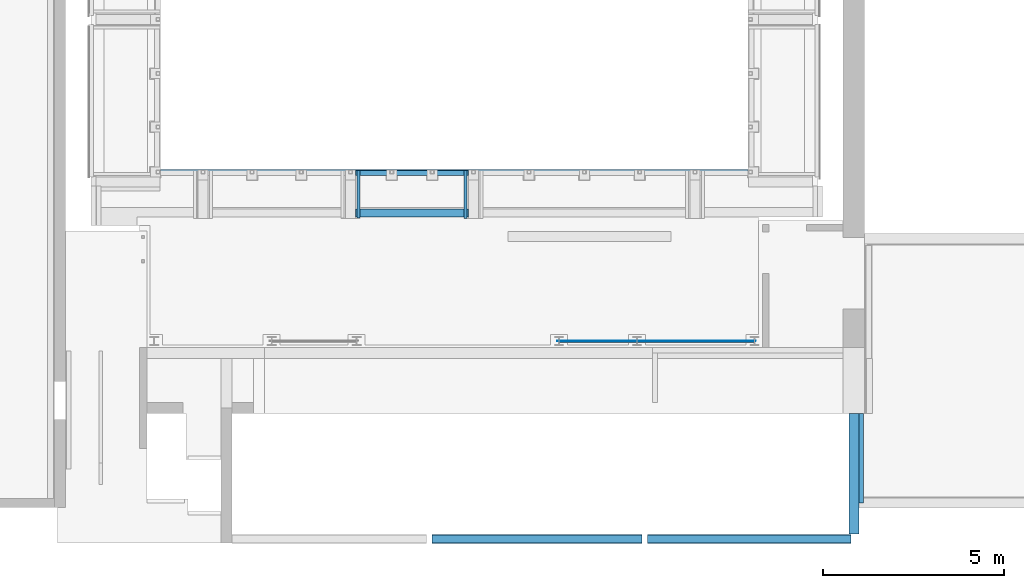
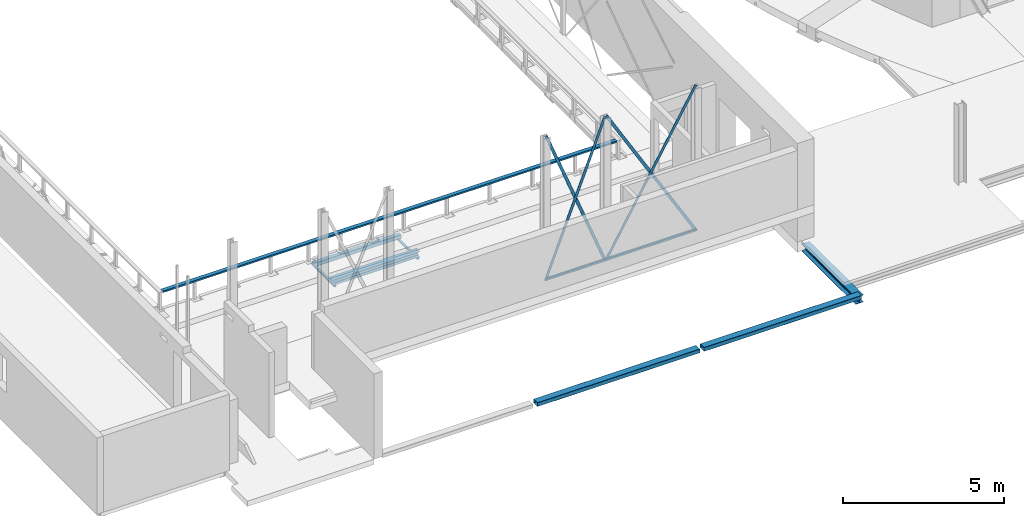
# One storey, part 16 of 68: 14 beams.
"""IFC2X3 building model written with IfcOpenShell, lengths in millimetres."""

from ifc_helpers import new_model, entity, si_unit, converted_unit, derived_unit, direction, frame, frame_2d, origin, place, context, subcontext, project, spatial, polyline, circle_curve, parameter, trimmed, segment, composite_curve, rectangle, i_section, outline, extrude, source, transform, mapped, material, material_list, type_object, type_shapes, element, save


model = new_model("IFC2X3")

# Units and contexts
model_context = context("Model", 3, precision=0.01, world=origin(), true_north=direction((6.12303176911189e-17, 1.0)))
body_context = subcontext(model_context, "Body", "Model", "MODEL_VIEW")
ifc_project = project(units=[si_unit("LENGTHUNIT", "METRE", prefix="MILLI"), si_unit("AREAUNIT", "SQUARE_METRE", prefix="MILLI"), si_unit("VOLUMEUNIT", "CUBIC_METRE"), converted_unit("PLANEANGLEUNIT", "DEGREE", entity("IfcRatioMeasure", 0.0174532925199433), si_unit("PLANEANGLEUNIT", "RADIAN"), dimensions=[0, 0, 0, 0, 0, 0, 0]), si_unit("MASSUNIT", "GRAM", prefix="KILO"), derived_unit("MASSDENSITYUNIT", [(si_unit("MASSUNIT", "GRAM", prefix="KILO"), 1), (si_unit("LENGTHUNIT", "METRE"), -3)]), derived_unit("MOMENTOFINERTIAUNIT", [(si_unit("LENGTHUNIT", "METRE"), 4)]), si_unit("TIMEUNIT", "SECOND"), si_unit("FREQUENCYUNIT", "HERTZ"), si_unit("THERMODYNAMICTEMPERATUREUNIT", "DEGREE_CELSIUS"), derived_unit("THERMALTRANSMITTANCEUNIT", [(si_unit("MASSUNIT", "GRAM", prefix="KILO"), 1), (si_unit("THERMODYNAMICTEMPERATUREUNIT", "KELVIN"), -1), (si_unit("TIMEUNIT", "SECOND"), -3)]), derived_unit("VOLUMETRICFLOWRATEUNIT", [(si_unit("LENGTHUNIT", "METRE"), 3), (si_unit("TIMEUNIT", "SECOND"), -1)]), si_unit("ELECTRICCURRENTUNIT", "AMPERE"), si_unit("ELECTRICVOLTAGEUNIT", "VOLT"), si_unit("POWERUNIT", "WATT"), si_unit("FORCEUNIT", "NEWTON", prefix="KILO"), si_unit("ILLUMINANCEUNIT", "LUX"), si_unit("LUMINOUSFLUXUNIT", "LUMEN"), si_unit("LUMINOUSINTENSITYUNIT", "CANDELA"), derived_unit("USERDEFINED", [(si_unit("MASSUNIT", "GRAM", prefix="KILO"), -1), (si_unit("LENGTHUNIT", "METRE"), -2), (si_unit("TIMEUNIT", "SECOND"), 3), (si_unit("LUMINOUSFLUXUNIT", "LUMEN"), 1)]), derived_unit("LINEARVELOCITYUNIT", [(si_unit("LENGTHUNIT", "METRE"), 1), (si_unit("TIMEUNIT", "SECOND"), -1)]), si_unit("PRESSUREUNIT", "PASCAL"), derived_unit("USERDEFINED", [(si_unit("LENGTHUNIT", "METRE"), -2), (si_unit("MASSUNIT", "GRAM", prefix="KILO"), 1), (si_unit("TIMEUNIT", "SECOND"), -2)]), derived_unit("LINEARFORCEUNIT", [(si_unit("MASSUNIT", "GRAM", prefix="KILO"), 1), (si_unit("LENGTHUNIT", "METRE"), 1), (si_unit("TIMEUNIT", "SECOND"), -2), (si_unit("LENGTHUNIT", "METRE"), -1)]), derived_unit("PLANARFORCEUNIT", [(si_unit("MASSUNIT", "GRAM", prefix="KILO"), 1), (si_unit("LENGTHUNIT", "METRE"), 1), (si_unit("TIMEUNIT", "SECOND"), -2), (si_unit("LENGTHUNIT", "METRE"), -2)])], contexts=[model_context])

# Site, building, storey
site_placement = place(None, origin())
site = spatial("IfcSite", under=ifc_project, at=site_placement, Name="Theater aan de Parade", CompositionType="ELEMENT")
building_placement = place(site_placement, origin())
building = spatial("IfcBuilding", under=site, at=building_placement, Name="Theater aan de Parade", CompositionType="ELEMENT")
storey_placement = place(building_placement, frame((0.0, 0.0, 8750.0)))
storey = spatial("IfcBuildingStorey", under=building, at=storey_placement, Name="02 tweede verdieping", CompositionType="ELEMENT", Elevation=8750.0)

# Beams
ifc_material_1 = material(Name="00_PBT_MAT_staal_S355")
beam_type_1 = type_object("IfcBeamType", Name="28_PBT_SF_staal_koker:S355_K150x150x10", PredefinedType="NOTDEFINED")
beam_1_placement = place(storey_placement, frame((26495.3581839, 19318.3084468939, 0.0), z_axis=(0.0, 0.0, 1.0), x_axis=(-1.0, 0.0, 0.0)))
element("IfcBeam", 1, at=beam_1_placement, inside=storey, type_object=beam_type_1, material=ifc_material_1, Name="28_PBT_SF_staal_koker:S355_K150x150x10", ObjectType="28_PBT_SF_staal_koker:S355_K150x150x10", context=body_context, shape_type="SweptSolid", body=[
    extrude(outline(composite_curve([segment(trimmed(circle_curve(frame_2d((-70.4003434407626, -60.0), x_axis=(1.0, 0.0)), 15.0), [parameter(180.0)], [parameter(270.0)], True, "PARAMETER"), True, "CONTINUOUS"), segment(polyline([(-70.4003434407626, -75.0), (41.6013737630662, -75.0)]), True, "CONTINUOUS"), segment(polyline([(41.6013737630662, -75.0), (49.5996565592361, -75.0)]), True, "CONTINUOUS"), segment(trimmed(circle_curve(frame_2d((49.5996565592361, -60.0), x_axis=(1.0, 0.0)), 15.0), [parameter(270.0)], [parameter(0.0)], True, "PARAMETER"), True, "CONTINUOUS"), segment(polyline([(64.599656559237, -60.0), (64.599656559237, 60.0)]), True, "CONTINUOUS"), segment(trimmed(circle_curve(frame_2d((49.5996565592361, 60.0), x_axis=(1.0, 0.0)), 15.0), [parameter(3.56222124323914e-13)], [parameter(90.0000000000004)], True, "PARAMETER"), True, "CONTINUOUS"), segment(polyline([(49.5996565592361, 75.0), (41.6013737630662, 75.0)]), True, "CONTINUOUS"), segment(polyline([(41.6013737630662, 75.0), (-70.4003434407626, 75.0)]), True, "CONTINUOUS"), segment(trimmed(circle_curve(frame_2d((-70.4003434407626, 60.0), x_axis=(1.0, 0.0)), 15.0), [parameter(90.0)], [parameter(180.0)], True, "PARAMETER"), True, "CONTINUOUS"), segment(polyline([(-85.4003434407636, 60.0), (-85.4003434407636, -60.0)]), True, "CONTINUOUS")], self_intersect=False), holes=[composite_curve([segment(trimmed(circle_curve(frame_2d((44.5996565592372, 55.0), x_axis=(1.0, 0.0)), 10.0), [parameter(0.0)], [parameter(90.0000000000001)], True, "PARAMETER"), False, "CONTINUOUS"), segment(polyline([(54.5996565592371, 55.0), (54.5996565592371, -55.0)]), True, "CONTINUOUS"), segment(trimmed(circle_curve(frame_2d((44.5996565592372, -55.0), x_axis=(1.0, 0.0)), 10.0), [parameter(269.999999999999)], [parameter(360.0)], True, "PARAMETER"), False, "CONTINUOUS"), segment(polyline([(44.5996565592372, -65.0), (-65.4003434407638, -65.0)]), True, "CONTINUOUS"), segment(trimmed(circle_curve(frame_2d((-65.4003434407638, -55.0), x_axis=(1.0, 0.0)), 10.0), [parameter(180.0)], [parameter(270.0)], True, "PARAMETER"), False, "CONTINUOUS"), segment(polyline([(-75.4003434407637, -55.0), (-75.4003434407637, 55.0)]), True, "CONTINUOUS"), segment(trimmed(circle_curve(frame_2d((-65.4003434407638, 55.0), x_axis=(1.0, 0.0)), 10.0), [parameter(89.9999999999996)], [parameter(180.0)], True, "PARAMETER"), False, "CONTINUOUS"), segment(polyline([(-65.4003434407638, 65.0), (44.5996565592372, 65.0)]), True, "CONTINUOUS")], self_intersect=False)]), frame((0.0, 10.4003434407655, -225.0), z_axis=(1.0, 0.0, 0.0), x_axis=(0.0, 1.0, 0.0)), (0.0, 0.0, 1.0), 3122.50000409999),
])
beam_type_2 = type_object("IfcBeamType", Name="28_PBT_SF_staal_H-profiel:S355_HE220A", PredefinedType="NOTDEFINED")
beam_2_placement = place(storey_placement, frame((26495.3581839, 18206.305865, 0.0), z_axis=(0.0, 0.0, 1.0), x_axis=(-1.0, 0.0, 0.0)))
element("IfcBeam", 2, at=beam_2_placement, inside=storey, type_object=beam_type_2, material=ifc_material_1, Name="28_PBT_SF_staal_H-profiel:S355_HE220A", ObjectType="28_PBT_SF_staal_H-profiel:S355_HE220A", context=body_context, shape_type="SweptSolid", body=[
    extrude(outline(composite_curve([segment(polyline([(94.0, -110.0), (105.0, -110.0)]), True, "CONTINUOUS"), segment(polyline([(105.0, -110.0), (105.0, 110.0)]), True, "CONTINUOUS"), segment(polyline([(105.0, 110.0), (94.0, 110.0)]), True, "CONTINUOUS"), segment(polyline([(94.0, 110.0), (94.0, 21.5000000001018)]), True, "CONTINUOUS"), segment(trimmed(circle_curve(frame_2d((76.0, 21.5000000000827), x_axis=(1.0, 0.0)), 18.0000000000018), [parameter(270.00000000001)], [parameter(0.0)], True, "PARAMETER"), False, "CONTINUOUS"), segment(polyline([(76.0, 3.50000000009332), (-76.0, 3.49999999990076)]), True, "CONTINUOUS"), segment(trimmed(circle_curve(frame_2d((-76.0, 21.4999999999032), x_axis=(0.0, -1.0)), 18.0000000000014), [parameter(270.00000000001)], [parameter(0.0)], True, "PARAMETER"), False, "CONTINUOUS"), segment(polyline([(-94.0, 21.4999999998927), (-94.0, 110.0)]), True, "CONTINUOUS"), segment(polyline([(-94.0, 110.0), (-105.0, 110.0)]), True, "CONTINUOUS"), segment(polyline([(-105.0, 110.0), (-105.0, -110.0)]), True, "CONTINUOUS"), segment(polyline([(-105.0, -110.0), (-94.0, -110.0)]), True, "CONTINUOUS"), segment(polyline([(-94.0, -110.0), (-94.0, -21.5000000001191)]), True, "CONTINUOUS"), segment(trimmed(circle_curve(frame_2d((-76.0, -21.5000000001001), x_axis=(-1.0, 0.0)), 18.0000000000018), [parameter(270.00000000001)], [parameter(0.0)], True, "PARAMETER"), False, "CONTINUOUS"), segment(polyline([(-76.0, -3.50000000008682), (76.0, -3.49999999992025)]), True, "CONTINUOUS"), segment(trimmed(circle_curve(frame_2d((76.0, -21.4999999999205), x_axis=(0.0, 1.0)), 18.0000000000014), [parameter(270.00000000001)], [parameter(0.0)], True, "PARAMETER"), False, "CONTINUOUS"), segment(polyline([(94.0, -21.4999999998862), (94.0, -110.0)]), True, "CONTINUOUS")], self_intersect=False)), frame((0.0, 0.0, -195.0), z_axis=(1.0, 0.0, 0.0), x_axis=(0.0, 0.0, -1.0)), (0.0, 0.0, 1.0), 3122.50000409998),
])
ifc_material_2 = material(Name="00_PBT_MAT_staal")
beam_type_3 = type_object("IfcBeamType", Name="28_PBT_SF_staal_strip:strip 6x100", PredefinedType="NOTDEFINED")
beam_3_placement = place(storey_placement, frame((29004.5162175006, 14676.2906195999, 1.69159924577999), z_axis=(0.931749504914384, 0.0, -0.363101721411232), x_axis=(0.363101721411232, 0.0, 0.931749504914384)))
element("IfcBeam", 3, at=beam_3_placement, inside=storey, type_object=beam_type_3, material=ifc_material_2, Name="28_PBT_SF_staal_strip:strip 6x100", ObjectType="28_PBT_SF_staal_strip:strip 6x100", context=body_context, shape_type="SweptSolid", body=[
    extrude(rectangle(XDim=100.0, YDim=5.99999999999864, at=frame_2d((-1.95399252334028e-13, 1.08291153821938e-12), x_axis=(1.0, 0.0))), frame((0.0, 3.0, 0.0), z_axis=(1.0, 0.0, 0.0), x_axis=(0.0, 0.0, -1.0)), (0.0, 0.0, 1.0), 5858.70350281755),
])
beam_4_placement = place(storey_placement, frame((31148.7924190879, 14676.2906195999, -0.0250455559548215), z_axis=(0.932347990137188, 0.0, 0.361562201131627), x_axis=(-0.361562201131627, 0.0, 0.932347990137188)))
element("IfcBeam", 4, at=beam_4_placement, inside=storey, type_object=beam_type_3, material=ifc_material_2, Name="28_PBT_SF_staal_strip:strip 6x100", ObjectType="28_PBT_SF_staal_strip:strip 6x100", context=body_context, shape_type="SweptSolid", body=[
    extrude(rectangle(XDim=100.0, YDim=5.99999999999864, at=frame_2d((2.41229258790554e-12, 1.08291153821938e-12), x_axis=(1.0, 0.0))), frame((0.0, -3.0, 0.0), z_axis=(1.0, 0.0, 0.0), x_axis=(0.0, 0.0, -1.0)), (0.0, 0.0, 1.0), 5858.65527868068),
])
beam_5_placement = place(storey_placement, frame((31155.4685680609, 14676.2906195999, 1.98130011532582), z_axis=(0.863255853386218, 0.0, -0.504766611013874), x_axis=(0.504766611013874, 0.0, 0.863255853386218)))
element("IfcBeam", 5, at=beam_5_placement, inside=storey, type_object=beam_type_3, material=ifc_material_2, Name="28_PBT_SF_staal_strip:strip 6x100", ObjectType="28_PBT_SF_staal_strip:strip 6x100", context=body_context, shape_type="SweptSolid", body=[
    extrude(rectangle(XDim=100.000000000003, YDim=6.0000000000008, at=frame_2d((-9.66338120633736e-12, -1.08291153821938e-12), x_axis=(1.0, 0.0))), frame((0.0, 3.0, 0.0), z_axis=(1.0, 0.0, 0.0), x_axis=(0.0, 0.0, -1.0)), (0.0, 0.0, 1.0), 6396.71678389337),
])
beam_6_placement = place(storey_placement, frame((34402.6337865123, 14676.2906195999, 2.23021913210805), z_axis=(0.861840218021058, 0.0, 0.507179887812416), x_axis=(-0.507179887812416, 0.0, 0.861840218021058)))
element("IfcBeam", 6, at=beam_6_placement, inside=storey, type_object=beam_type_3, material=ifc_material_2, Name="28_PBT_SF_staal_strip:strip 6x100", ObjectType="28_PBT_SF_staal_strip:strip 6x100", context=body_context, shape_type="SweptSolid", body=[
    extrude(rectangle(XDim=100.000000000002, YDim=5.99999999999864, at=frame_2d((2.73558953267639e-13, 0.0), x_axis=(1.0, 0.0))), frame((0.0, -3.0, 0.0), z_axis=(1.0, 0.0, 0.0), x_axis=(0.0, 0.0, -1.0)), (0.0, 0.0, 1.0), 6345.35723959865),
])
ifc_material_3 = material(Name="00_PBT_MAT_Lucht")
ifc_material_list = material_list([ifc_material_3, ifc_material_1])
beam_type_4 = type_object("IfcBeamType", Name="28_PBT_SF_staal_H-profiel_met_ondergelaste_strip (void):S355_HE280A + ondergelaste strip d=15", PredefinedType="BEAM", material=ifc_material_list)
shared_shape = source(origin(), body_context, "Body", "SweptSolid", [
    extrude(i_section(OverallWidth=280.000000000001, OverallDepth=270.0, WebThickness=8.00000000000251, FlangeThickness=13.0000000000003, FilletRadius=23.9999999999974, at=frame_2d((-2.1600499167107e-12, -5.40012479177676e-13), x_axis=(1.0, 0.0))), frame((37153.8581300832, 9334.69999999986, 8420.0), z_axis=(0.0, 1.0, 0.0), x_axis=(-1.0, 0.0, 0.0)), (0.0, 0.0, 1.0), 3334.52676970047),
    extrude(rectangle(XDim=14.9999999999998, YDim=400.0, at=frame_2d((2.17426077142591e-12, 0.0), x_axis=(0.0, 1.0))), frame((37218.8581300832, 10191.6999999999, 8277.5), z_axis=(0.0, 1.0, 0.0), x_axis=(-1.0, 0.0, 0.0)), (0.0, 0.0, 1.0), 2476.52676970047),
])
type_shapes(beam_type_4, [shared_shape])
beam_7_placement = place(storey_placement, frame((0.0, 0.0, -8750.0)))
element("IfcBeam", 7, at=beam_7_placement, inside=storey, type_object=beam_type_4, material=ifc_material_1, Name="28_PBT_SF_staal_H-profiel_met_ondergelaste_strip (void):S355_HE280A + ondergelaste strip d=15", ObjectType="28_PBT_SF_staal_H-profiel_met_ondergelaste_strip (void):S355_HE280A + ondergelaste strip d=15", context=body_context, shape_type="MappedRepresentation", body=[
    mapped(shared_shape, transform((0.0, 0.0, 0.0), scale=1.0)),
])
beam_type_5 = type_object("IfcBeamType", Name="28_PBT_SF_staal_koker:S355_K150x250x10", PredefinedType="NOTDEFINED")
beam_8_placement = place(storey_placement, frame((25485.0, 9197.0, 0.0)))
element("IfcBeam", 8, at=beam_8_placement, inside=storey, type_object=beam_type_5, material=ifc_material_1, Name="28_PBT_SF_staal_koker:S355_K150x250x10", ObjectType="28_PBT_SF_staal_koker:S355_K150x250x10", context=body_context, shape_type="SweptSolid", body=[
    extrude(outline(composite_curve([segment(polyline([(-60.0, -125.0), (60.0, -125.0)]), True, "CONTINUOUS"), segment(trimmed(circle_curve(frame_2d((60.0, -110.0), x_axis=(0.0, 1.0)), 15.0), [parameter(180.0)], [parameter(270.0)], True, "PARAMETER"), True, "CONTINUOUS"), segment(polyline([(75.0, -110.0), (75.0, 110.0)]), True, "CONTINUOUS"), segment(trimmed(circle_curve(frame_2d((60.0, 110.0), x_axis=(0.0, 1.0)), 15.0), [parameter(269.999999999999)], [parameter(360.0)], True, "PARAMETER"), True, "CONTINUOUS"), segment(polyline([(60.0, 125.0), (-60.0, 125.0)]), True, "CONTINUOUS"), segment(trimmed(circle_curve(frame_2d((-60.0, 110.0), x_axis=(0.0, 1.0)), 15.0), [parameter(360.0)], [parameter(90.0000000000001)], True, "PARAMETER"), True, "CONTINUOUS"), segment(polyline([(-75.0, 110.0), (-75.0, -110.0)]), True, "CONTINUOUS"), segment(trimmed(circle_curve(frame_2d((-60.0, -110.0), x_axis=(0.0, 1.0)), 15.0), [parameter(89.9999999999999)], [parameter(180.0)], True, "PARAMETER"), True, "CONTINUOUS")], self_intersect=False), holes=[composite_curve([segment(polyline([(65.0, 105.0), (65.0, -105.0)]), True, "CONTINUOUS"), segment(trimmed(circle_curve(frame_2d((55.0, -105.0), x_axis=(0.0, 1.0)), 10.0), [parameter(180.0)], [parameter(270.0)], True, "PARAMETER"), False, "CONTINUOUS"), segment(polyline([(55.0, -115.0), (-55.0, -115.0)]), True, "CONTINUOUS"), segment(trimmed(circle_curve(frame_2d((-55.0, -105.0), x_axis=(0.0, 1.0)), 10.0), [parameter(90.0000000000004)], [parameter(180.0)], True, "PARAMETER"), False, "CONTINUOUS"), segment(polyline([(-65.0, -105.0), (-65.0, 105.0)]), True, "CONTINUOUS"), segment(trimmed(circle_curve(frame_2d((-55.0, 105.0), x_axis=(0.0, 1.0)), 10.0), [parameter(3.56222124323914e-13)], [parameter(90.0000000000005)], True, "PARAMETER"), False, "CONTINUOUS"), segment(polyline([(-55.0, 115.0), (55.0, 115.0)]), True, "CONTINUOUS"), segment(trimmed(circle_curve(frame_2d((55.0, 105.0), x_axis=(0.0, 1.0)), 10.0), [parameter(270.0)], [parameter(0.0)], True, "PARAMETER"), False, "CONTINUOUS")], self_intersect=False)]), frame((0.0, 0.0, -65.0), z_axis=(1.0, 0.0, 0.0), x_axis=(0.0, 0.0, 1.0)), (0.0, 0.0, 1.0), 5815.00000000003),
])
beam_9_placement = place(storey_placement, frame((37078.8581300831, 9197.0, 0.0), z_axis=(0.0, 0.0, 1.0), x_axis=(-1.0, 0.0, 0.0)))
element("IfcBeam", 9, at=beam_9_placement, inside=storey, type_object=beam_type_5, material=ifc_material_1, Name="28_PBT_SF_staal_koker:S355_K150x250x10", ObjectType="28_PBT_SF_staal_koker:S355_K150x250x10", context=body_context, shape_type="SweptSolid", body=[
    extrude(outline(composite_curve([segment(trimmed(circle_curve(frame_2d((-110.0, -60.0), x_axis=(1.0, 0.0)), 15.0), [parameter(180.0)], [parameter(270.0)], True, "PARAMETER"), True, "CONTINUOUS"), segment(polyline([(-110.0, -75.0), (110.0, -75.0)]), True, "CONTINUOUS"), segment(trimmed(circle_curve(frame_2d((110.0, -60.0), x_axis=(1.0, 0.0)), 15.0), [parameter(270.0)], [parameter(5.08888749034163e-14)], True, "PARAMETER"), True, "CONTINUOUS"), segment(polyline([(125.0, -60.0), (125.0, 60.0)]), True, "CONTINUOUS"), segment(trimmed(circle_curve(frame_2d((110.0, 60.0), x_axis=(1.0, 0.0)), 15.0), [parameter(3.56222124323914e-13)], [parameter(90.0000000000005)], True, "PARAMETER"), True, "CONTINUOUS"), segment(polyline([(110.0, 75.0), (-110.0, 75.0)]), True, "CONTINUOUS"), segment(trimmed(circle_curve(frame_2d((-110.0, 60.0), x_axis=(1.0, 0.0)), 15.0), [parameter(90.0)], [parameter(180.0)], True, "PARAMETER"), True, "CONTINUOUS"), segment(polyline([(-125.0, 60.0), (-125.0, -60.0)]), True, "CONTINUOUS")], self_intersect=False), holes=[composite_curve([segment(trimmed(circle_curve(frame_2d((105.0, 55.0), x_axis=(1.0, 0.0)), 10.0), [parameter(0.0)], [parameter(90.0000000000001)], True, "PARAMETER"), False, "CONTINUOUS"), segment(polyline([(115.0, 55.0), (115.0, -55.0)]), True, "CONTINUOUS"), segment(trimmed(circle_curve(frame_2d((105.0, -55.0), x_axis=(1.0, 0.0)), 10.0), [parameter(269.999999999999)], [parameter(360.0)], True, "PARAMETER"), False, "CONTINUOUS"), segment(polyline([(105.0, -65.0), (-105.0, -65.0)]), True, "CONTINUOUS"), segment(trimmed(circle_curve(frame_2d((-105.0, -55.0), x_axis=(1.0, 0.0)), 10.0), [parameter(180.0)], [parameter(270.0)], True, "PARAMETER"), False, "CONTINUOUS"), segment(polyline([(-115.0, -55.0), (-115.0, 55.0)]), True, "CONTINUOUS"), segment(trimmed(circle_curve(frame_2d((-105.0, 55.0), x_axis=(1.0, 0.0)), 10.0), [parameter(89.9999999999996)], [parameter(180.0)], True, "PARAMETER"), False, "CONTINUOUS"), segment(polyline([(-105.0, 65.0), (105.0, 65.0)]), True, "CONTINUOUS")], self_intersect=False)]), frame((0.0, 0.0, -65.0), z_axis=(1.0, 0.0, 0.0), x_axis=(0.0, 1.0, 0.0)), (0.0, 0.0, 1.0), 5628.85813008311),
])
beam_type_6 = type_object("IfcBeamType", Name="28_PBT_SF_staal_UNP-profiel:S355_UNP140", PredefinedType="NOTDEFINED")
beam_10_placement = place(storey_placement, frame((17980.8570032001, 19343.30672969, 0.0)))
element("IfcBeam", 10, at=beam_10_placement, inside=storey, type_object=beam_type_6, material=ifc_material_1, Name="28_PBT_SF_staal_UNP-profiel:S355_UNP140", ObjectType="28_PBT_SF_staal_UNP-profiel:S355_UNP140", context=body_context, shape_type="SweptSolid", body=[
    extrude(outline(composite_curve([segment(polyline([(-33.1002123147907, -70.0), (26.8997876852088, -70.0)]), True, "CONTINUOUS"), segment(polyline([(26.8997876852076, -70.0), (26.8997876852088, -67.015974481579)]), True, "CONTINUOUS"), segment(trimmed(circle_curve(frame_2d((21.8997876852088, -67.0159744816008), x_axis=(1.0, 0.0)), 4.99999999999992), [parameter(0.0)], [parameter(85.4260787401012)], True, "PARAMETER"), True, "CONTINUOUS"), segment(polyline([(22.2985137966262, -62.0318980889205), (-16.8976645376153, -58.896203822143)]), True, "CONTINUOUS"), segment(trimmed(circle_curve(frame_2d((-16.100212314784, -48.9280510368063), x_axis=(-0.0797452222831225, -0.996815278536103)), 9.99999999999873), [parameter(274.573921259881)], [parameter(0.0)], True, "PARAMETER"), False, "CONTINUOUS"), segment(polyline([(-26.1002123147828, -48.9280510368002), (-26.1002123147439, 48.9280510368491)]), True, "CONTINUOUS"), segment(trimmed(circle_curve(frame_2d((-16.1002123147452, 48.9280510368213), x_axis=(-1.0, 0.0)), 9.99999999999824), [parameter(274.573921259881)], [parameter(0.0)], True, "PARAMETER"), False, "CONTINUOUS"), segment(polyline([(-16.8976645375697, 58.8962038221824), (22.2985137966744, 62.0318980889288)]), True, "CONTINUOUS"), segment(trimmed(circle_curve(frame_2d((21.899787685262, 67.0159744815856), x_axis=(0.0797452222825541, -0.996815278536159)), 4.99999999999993), [parameter(0.0)], [parameter(85.4260787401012)], True, "PARAMETER"), True, "CONTINUOUS"), segment(polyline([(26.899787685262, 67.0159744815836), (26.8997876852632, 70.0)]), True, "CONTINUOUS"), segment(polyline([(26.8997876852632, 70.0), (-33.1002123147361, 70.0)]), True, "CONTINUOUS"), segment(polyline([(-33.1002123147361, 70.0), (-33.1002123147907, -70.0)]), True, "CONTINUOUS")], self_intersect=False)), frame((0.0, 0.0, 636.899787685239), z_axis=(1.0, 0.0, 0.0), x_axis=(0.0, 0.0, -1.0)), (0.0, 0.0, 1.0), 16246.0004740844),
])
ifc_material_4 = material(Name="00_PBT_MAT_staal_S235")
beam_type_7 = type_object("IfcBeamType", Name="28_PBT_SF_staal_koker:S235_K50x90x5", PredefinedType="NOTDEFINED")
beam_11_placement = place(storey_placement, frame((26415.3581839, 18066.305865, 0.0), z_axis=(0.0, 0.0, 1.0), x_axis=(0.0, 1.0, 0.0)))
element("IfcBeam", 11, at=beam_11_placement, inside=storey, type_object=beam_type_7, material=ifc_material_4, Name="28_PBT_SF_staal_koker:S235_K50x90x5", ObjectType="28_PBT_SF_staal_koker:S235_K50x90x5", context=body_context, shape_type="SweptSolid", body=[
    extrude(outline(composite_curve([segment(polyline([(-17.4999999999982, -45.0), (17.5000000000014, -45.0)]), True, "CONTINUOUS"), segment(trimmed(circle_curve(frame_2d((17.5000000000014, -37.5000000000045), x_axis=(0.0, 1.0)), 7.5), [parameter(180.0)], [parameter(270.0)], True, "PARAMETER"), True, "CONTINUOUS"), segment(polyline([(25.0, -37.5000000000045), (25.0, 37.4999999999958)]), True, "CONTINUOUS"), segment(trimmed(circle_curve(frame_2d((17.5000000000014, 37.4999999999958), x_axis=(0.0, 1.0)), 7.5), [parameter(270.0)], [parameter(360.0)], True, "PARAMETER"), True, "CONTINUOUS"), segment(polyline([(17.5000000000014, 45.0), (-17.4999999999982, 45.0)]), True, "CONTINUOUS"), segment(trimmed(circle_curve(frame_2d((-17.4999999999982, 37.4999999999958), x_axis=(0.0, 1.0)), 7.5), [parameter(0.0)], [parameter(90.0000000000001)], True, "PARAMETER"), True, "CONTINUOUS"), segment(polyline([(-25.0, 37.4999999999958), (-25.0, -37.5000000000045)]), True, "CONTINUOUS"), segment(trimmed(circle_curve(frame_2d((-17.4999999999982, -37.5000000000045), x_axis=(0.0, 1.0)), 7.5), [parameter(89.9999999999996)], [parameter(180.0)], True, "PARAMETER"), True, "CONTINUOUS")], self_intersect=False), holes=[composite_curve([segment(polyline([(20.0, 35.0), (20.0, -35.0)]), True, "CONTINUOUS"), segment(trimmed(circle_curve(frame_2d((15.0, -35.0), x_axis=(0.0, 1.0)), 5.0), [parameter(180.0)], [parameter(270.0)], True, "PARAMETER"), False, "CONTINUOUS"), segment(polyline([(15.0, -40.0), (-15.0, -40.0)]), True, "CONTINUOUS"), segment(trimmed(circle_curve(frame_2d((-15.0, -35.0), x_axis=(0.0, 1.0)), 5.0), [parameter(90.0000000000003)], [parameter(180.0)], True, "PARAMETER"), False, "CONTINUOUS"), segment(polyline([(-20.0, -35.0), (-20.0, 35.0)]), True, "CONTINUOUS"), segment(trimmed(circle_curve(frame_2d((-15.0, 35.0), x_axis=(0.0, 1.0)), 5.0), [parameter(3.56222124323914e-13)], [parameter(90.0000000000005)], True, "PARAMETER"), False, "CONTINUOUS"), segment(polyline([(-15.0, 40.0), (15.0, 40.0)]), True, "CONTINUOUS"), segment(trimmed(circle_curve(frame_2d((15.0, 35.0), x_axis=(0.0, 1.0)), 5.0), [parameter(270.0)], [parameter(5.08888749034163e-14)], True, "PARAMETER"), False, "CONTINUOUS")], self_intersect=False)]), frame((0.0, 0.0, -325.0), z_axis=(1.0, 0.0, 0.0), x_axis=(0.0, 0.0, 1.0)), (0.0, 0.0, 1.0), 1327.00258189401),
])
beam_12_placement = place(storey_placement, frame((23452.8581797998, 18067.305865, 0.0), z_axis=(0.0, 0.0, 1.0), x_axis=(0.0, 1.0, 0.0)))
element("IfcBeam", 12, at=beam_12_placement, inside=storey, type_object=beam_type_7, material=ifc_material_4, Name="28_PBT_SF_staal_koker:S235_K50x90x5", ObjectType="28_PBT_SF_staal_koker:S235_K50x90x5", context=body_context, shape_type="SweptSolid", body=[
    extrude(outline(composite_curve([segment(trimmed(circle_curve(frame_2d((-37.5000000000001, -17.5000000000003), x_axis=(1.0, 0.0)), 7.5), [parameter(180.0)], [parameter(270.0)], True, "PARAMETER"), True, "CONTINUOUS"), segment(polyline([(-37.5000000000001, -25.0), (37.5000000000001, -25.0)]), True, "CONTINUOUS"), segment(trimmed(circle_curve(frame_2d((37.5000000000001, -17.5000000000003), x_axis=(1.0, 0.0)), 7.5), [parameter(270.0)], [parameter(0.0)], True, "PARAMETER"), True, "CONTINUOUS"), segment(polyline([(45.0, -17.5000000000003), (45.0, 17.4999999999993)]), True, "CONTINUOUS"), segment(trimmed(circle_curve(frame_2d((37.5000000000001, 17.4999999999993), x_axis=(1.0, 0.0)), 7.5), [parameter(3.56222124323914e-13)], [parameter(90.0000000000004)], True, "PARAMETER"), True, "CONTINUOUS"), segment(polyline([(37.5000000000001, 25.0), (-37.5000000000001, 25.0)]), True, "CONTINUOUS"), segment(trimmed(circle_curve(frame_2d((-37.5000000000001, 17.4999999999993), x_axis=(1.0, 0.0)), 7.5), [parameter(90.0000000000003)], [parameter(180.0)], True, "PARAMETER"), True, "CONTINUOUS"), segment(polyline([(-45.0, 17.4999999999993), (-45.0, -17.5000000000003)]), True, "CONTINUOUS")], self_intersect=False), holes=[composite_curve([segment(trimmed(circle_curve(frame_2d((35.0, 15.0), x_axis=(1.0, 0.0)), 5.0), [parameter(360.0)], [parameter(90.0000000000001)], True, "PARAMETER"), False, "CONTINUOUS"), segment(polyline([(40.0, 15.0), (40.0, -15.0)]), True, "CONTINUOUS"), segment(trimmed(circle_curve(frame_2d((35.0, -15.0), x_axis=(1.0, 0.0)), 5.0), [parameter(269.999999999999)], [parameter(360.0)], True, "PARAMETER"), False, "CONTINUOUS"), segment(polyline([(35.0, -20.0), (-35.0, -20.0)]), True, "CONTINUOUS"), segment(trimmed(circle_curve(frame_2d((-35.0, -15.0), x_axis=(1.0, 0.0)), 5.0), [parameter(180.0)], [parameter(270.0)], True, "PARAMETER"), False, "CONTINUOUS"), segment(polyline([(-40.0, -15.0), (-40.0, 15.0)]), True, "CONTINUOUS"), segment(trimmed(circle_curve(frame_2d((-35.0, 15.0), x_axis=(1.0, 0.0)), 5.0), [parameter(90.0)], [parameter(180.0)], True, "PARAMETER"), False, "CONTINUOUS"), segment(polyline([(-35.0, 20.0), (35.0, 20.0)]), True, "CONTINUOUS")], self_intersect=False)]), frame((0.0, 0.0, -325.0), z_axis=(1.0, 0.0, 0.0), x_axis=(0.0, 1.0, 0.0)), (0.0, 0.0, 1.0), 1326.00258189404),
])
beam_type_8 = type_object("IfcBeamType", Name="28_PBT_SF_staal_koker:S355_K80x80x5", PredefinedType="NOTDEFINED")
beam_13_placement = place(storey_placement, frame((31158.8570032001, 14676.2906195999, 0.0)))
element("IfcBeam", 13, at=beam_13_placement, inside=storey, type_object=beam_type_8, material=ifc_material_1, Name="28_PBT_SF_staal_koker:S355_K80x80x5", ObjectType="28_PBT_SF_staal_koker:S355_K80x80x5", context=body_context, shape_type="SweptSolid", body=[
    extrude(outline(composite_curve([segment(polyline([(-32.5000000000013, -40.0), (32.4999999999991, -40.0)]), True, "CONTINUOUS"), segment(trimmed(circle_curve(frame_2d((32.4999999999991, -32.4999999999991), x_axis=(0.0, 1.0)), 7.5), [parameter(180.0)], [parameter(270.0)], True, "PARAMETER"), True, "CONTINUOUS"), segment(polyline([(40.0, -32.4999999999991), (40.0, 32.4999999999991)]), True, "CONTINUOUS"), segment(trimmed(circle_curve(frame_2d((32.4999999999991, 32.5000000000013), x_axis=(0.0, 1.0)), 7.5), [parameter(270.0)], [parameter(360.0)], True, "PARAMETER"), True, "CONTINUOUS"), segment(polyline([(32.4999999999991, 40.0), (-32.5000000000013, 40.0)]), True, "CONTINUOUS"), segment(trimmed(circle_curve(frame_2d((-32.5000000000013, 32.5000000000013), x_axis=(0.0, 1.0)), 7.5), [parameter(0.0)], [parameter(90.0000000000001)], True, "PARAMETER"), True, "CONTINUOUS"), segment(polyline([(-40.0, 32.4999999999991), (-40.0, -32.4999999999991)]), True, "CONTINUOUS"), segment(trimmed(circle_curve(frame_2d((-32.5000000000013, -32.4999999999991), x_axis=(0.0, 1.0)), 7.5), [parameter(90.0)], [parameter(180.0)], True, "PARAMETER"), True, "CONTINUOUS")], self_intersect=False), holes=[composite_curve([segment(polyline([(35.0, 30.0), (35.0, -30.0)]), True, "CONTINUOUS"), segment(trimmed(circle_curve(frame_2d((30.0, -30.0), x_axis=(0.0, 1.0)), 5.0), [parameter(180.0)], [parameter(270.0)], True, "PARAMETER"), False, "CONTINUOUS"), segment(polyline([(30.0, -35.0), (-30.0, -35.0)]), True, "CONTINUOUS"), segment(trimmed(circle_curve(frame_2d((-30.0, -30.0), x_axis=(0.0, 1.0)), 5.0), [parameter(90.0)], [parameter(180.0)], True, "PARAMETER"), False, "CONTINUOUS"), segment(polyline([(-35.0, -30.0), (-35.0, 30.0)]), True, "CONTINUOUS"), segment(trimmed(circle_curve(frame_2d((-30.0, 30.0), x_axis=(0.0, 1.0)), 5.0), [parameter(4.07110999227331e-13)], [parameter(90.0000000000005)], True, "PARAMETER"), False, "CONTINUOUS"), segment(polyline([(-30.0, 35.0), (30.0, 35.0)]), True, "CONTINUOUS"), segment(trimmed(circle_curve(frame_2d((30.0, 30.0), x_axis=(0.0, 1.0)), 5.0), [parameter(270.0)], [parameter(5.08888749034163e-14)], True, "PARAMETER"), False, "CONTINUOUS")], self_intersect=False)]), frame((0.0, 0.0, 50.0), z_axis=(1.0, 0.0, 0.0), x_axis=(0.0, 0.0, 1.0)), (0.0, 0.0, 1.0), 3239.98701839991),
])
beam_14_placement = place(storey_placement, frame((29008.8570032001, 14676.2906195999, 0.0)))
element("IfcBeam", 14, at=beam_14_placement, inside=storey, type_object=beam_type_8, material=ifc_material_1, Name="28_PBT_SF_staal_koker:S355_K80x80x5", ObjectType="28_PBT_SF_staal_koker:S355_K80x80x5", context=body_context, shape_type="SweptSolid", body=[
    extrude(outline(composite_curve([segment(polyline([(-32.5000000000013, -40.0), (32.4999999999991, -40.0)]), True, "CONTINUOUS"), segment(trimmed(circle_curve(frame_2d((32.4999999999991, -32.5000000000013), x_axis=(0.0, 1.0)), 7.5), [parameter(180.0)], [parameter(270.0)], True, "PARAMETER"), True, "CONTINUOUS"), segment(polyline([(40.0, -32.4999999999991), (40.0, 32.4999999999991)]), True, "CONTINUOUS"), segment(trimmed(circle_curve(frame_2d((32.4999999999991, 32.4999999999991), x_axis=(0.0, 1.0)), 7.5), [parameter(270.0)], [parameter(360.0)], True, "PARAMETER"), True, "CONTINUOUS"), segment(polyline([(32.4999999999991, 40.0), (-32.5000000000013, 40.0)]), True, "CONTINUOUS"), segment(trimmed(circle_curve(frame_2d((-32.5000000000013, 32.4999999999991), x_axis=(0.0, 1.0)), 7.5), [parameter(0.0)], [parameter(90.0000000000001)], True, "PARAMETER"), True, "CONTINUOUS"), segment(polyline([(-40.0, 32.4999999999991), (-40.0, -32.4999999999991)]), True, "CONTINUOUS"), segment(trimmed(circle_curve(frame_2d((-32.5000000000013, -32.5000000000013), x_axis=(0.0, 1.0)), 7.5), [parameter(90.0)], [parameter(180.0)], True, "PARAMETER"), True, "CONTINUOUS")], self_intersect=False), holes=[composite_curve([segment(polyline([(35.0, 30.0), (35.0, -30.0)]), True, "CONTINUOUS"), segment(trimmed(circle_curve(frame_2d((30.0, -30.0), x_axis=(0.0, 1.0)), 5.0), [parameter(180.0)], [parameter(270.0)], True, "PARAMETER"), False, "CONTINUOUS"), segment(polyline([(30.0, -35.0), (-30.0, -35.0)]), True, "CONTINUOUS"), segment(trimmed(circle_curve(frame_2d((-30.0, -30.0), x_axis=(0.0, 1.0)), 5.0), [parameter(90.0)], [parameter(180.0)], True, "PARAMETER"), False, "CONTINUOUS"), segment(polyline([(-35.0, -30.0), (-35.0, 30.0)]), True, "CONTINUOUS"), segment(trimmed(circle_curve(frame_2d((-30.0, 30.0), x_axis=(0.0, 1.0)), 5.0), [parameter(4.07110999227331e-13)], [parameter(90.0000000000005)], True, "PARAMETER"), False, "CONTINUOUS"), segment(polyline([(-30.0, 35.0), (30.0, 35.0)]), True, "CONTINUOUS"), segment(trimmed(circle_curve(frame_2d((30.0, 30.0), x_axis=(0.0, 1.0)), 5.0), [parameter(270.0)], [parameter(5.08888749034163e-14)], True, "PARAMETER"), False, "CONTINUOUS")], self_intersect=False)]), frame((0.0, 0.0, 50.0), z_axis=(1.0, 0.0, 0.0), x_axis=(0.0, 0.0, 1.0)), (0.0, 0.0, 1.0), 2140.0),
])

save(model, "model.ifc")
